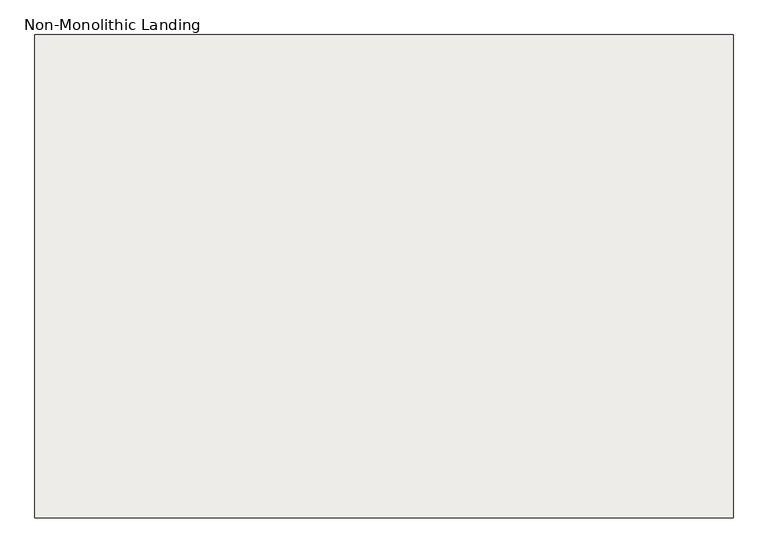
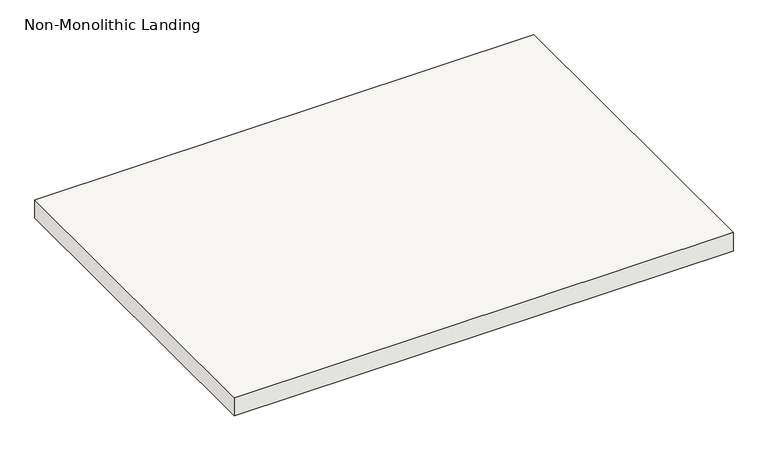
"""IFC4 building model written with IfcOpenShell, lengths in millimetres: slab geometry, Non-Monolithic Landing."""

from ifc_helpers import new_model, si_unit, frame, origin, place, context, project, spatial, polyline, outline, extrude, source, transform, mapped, element, save


def non_monolithic_landing_1bac0f6f(model_context):
    return source(origin(), model_context, "Body", "SweptSolid", [
        extrude(outline(polyline([(112302.1786089, 16760.4395941), (113622.9786089, 16760.4395941), (113622.9786089, 15846.0395941), (112302.1786089, 15846.0395941), (112302.1786089, 16760.4395941)])), frame((0.0, 0.0, 2126.3428571), z_axis=(0.0, 0.0, 1.0), x_axis=(1.0, 0.0, 0.0)), (0.0, 0.0, 1.0), 50.8),
    ])


if __name__ == "__main__":
    model = new_model("IFC4")
    model_context = context("Model", 3, world=origin())
    ifc_project = project(units=[si_unit("LENGTHUNIT", "METRE", prefix="MILLI")], contexts=[model_context])
    site = spatial("IfcSite", under=ifc_project)
    building = spatial("IfcBuilding", under=site)
    placement = place(None, origin())
    non_monolithic_landing_shape = non_monolithic_landing_1bac0f6f(model_context)
    element("IfcSlab", 1, ObjectType="Non-Monolithic Landing", at=placement, inside=building, context=model_context, shape_type="MappedRepresentation", body=[
        mapped(non_monolithic_landing_shape, transform((0.0, 0.0, 0.0), x_axis=(1.0, 0.0, 0.0), y_axis=(0.0, 1.0, 0.0), z_axis=(0.0, 0.0, 1.0))),
    ])
    save(model, "model.ifc")
